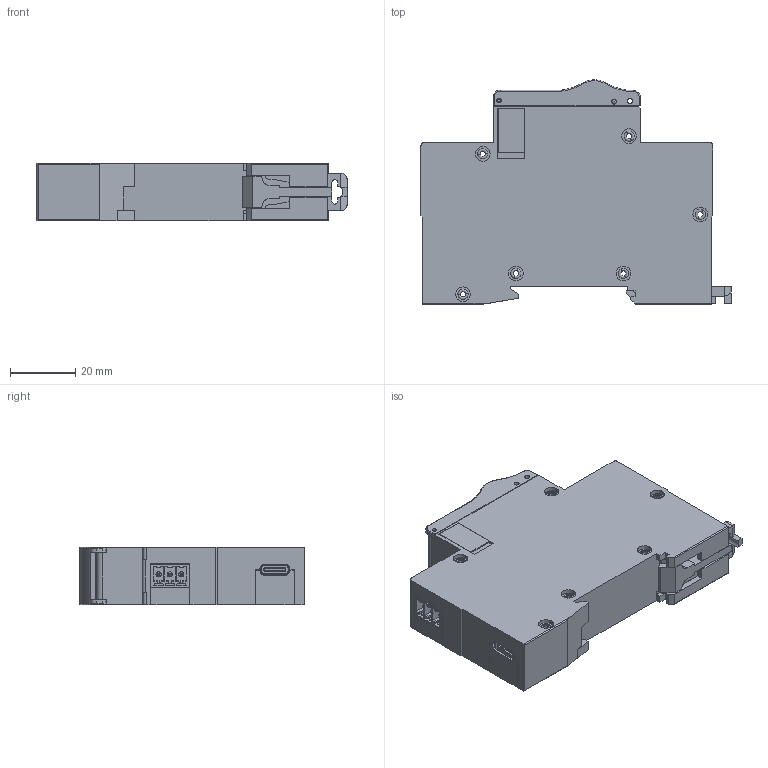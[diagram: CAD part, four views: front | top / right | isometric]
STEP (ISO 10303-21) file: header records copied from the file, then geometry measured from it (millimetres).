
FILE_DESCRIPTION (( 'STEP AP214' ), '1' );
FILE_NAME ('DF-TMB 4G（外置卡）.step', '2023-12-13T06:23:32', ( '' ), ( '' ), 'SwSTEP 2.0', 'SolidWorks 2018', '' );
FILE_SCHEMA (( 'AUTOMOTIVE_DESIGN' ));
Length unit declared in the file: millimetre
Products named in the file (1): DF-TMB 4G（外置卡）
Bounding box: 95.12 x 68.79 x 17.6 mm (x, y, z)
Surface area: 53893.4 mm2 (no closed solid volume)
Topology: 0 solids, 29 shells, 2835 faces, 7789 edges, 5124 vertices
Faces by surface type: plane 1809, cylinder 661, bspline 244, cone 65, torus 50, sphere 6
Entity records: 131732 total; most frequent: CARTESIAN_POINT 29506, ORIENTED_EDGE 15488, DIRECTION 13348, EDGE_CURVE 7785, LINE 5568, VECTOR 5568, VERTEX_POINT 5122, AXIS2_PLACEMENT_3D 3890
